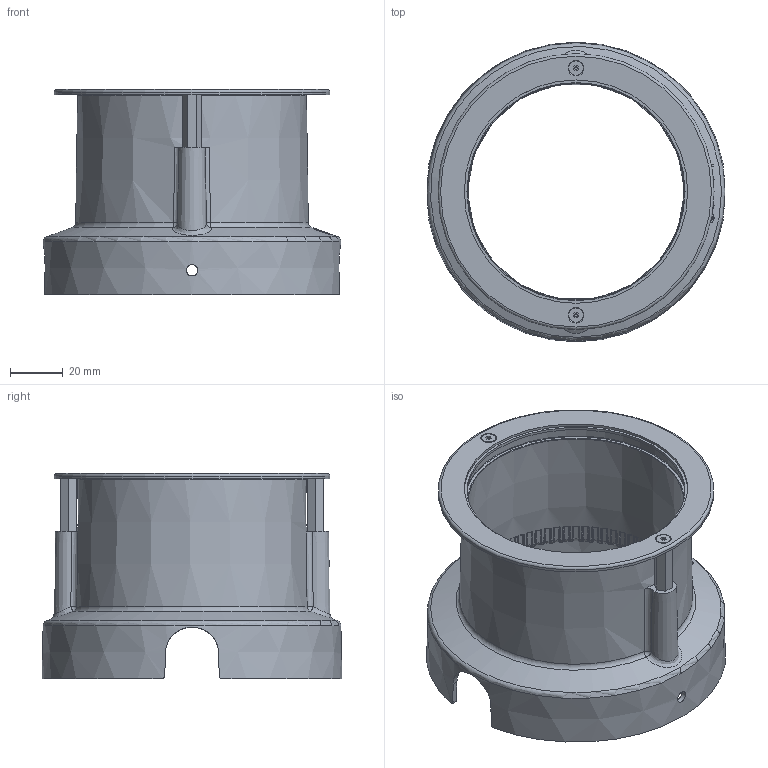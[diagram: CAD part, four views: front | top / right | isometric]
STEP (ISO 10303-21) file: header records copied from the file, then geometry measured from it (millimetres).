
FILE_DESCRIPTION(/* description */ ('Unknown'),/* implementation_level */ '2;1');
FILE_NAME(/* name */ 'E99563',/* time_stamp */ '2023-02-07T11:32:22+01:00',/* author */ ('Unknown'),/* organization */ ('Unknown'),/* preprocessor_version */ 'ST-DEVELOPER v18.1',/* originating_system */ 'Solid Edge',/* authorisation */ 'Unknown');
FILE_SCHEMA (('AUTOMOTIVE_DESIGN {1 0 10303 214 3 1 1}'));
Length unit declared in the file: millimetre
Products named in the file (1): E99563
Bounding box: 113.32 x 114 x 78 mm (x, y, z)
Volume: 67440.1 mm3; surface area: 60439.5 mm2
Topology: 1 solids, 1 shells, 1828 faces, 4371 edges, 2530 vertices
Faces by surface type: bspline 1098, torus 192, cone 179, cylinder 164, plane 159, sphere 36
Full cylindrical faces by diameter (mm): 1 x2, 3 x2, 3.5 x2, 4.3 x2, 83 x1, 85 x2, 105 x1
Entity records: 78809 total; most frequent: CARTESIAN_POINT 32248, ORIENTED_EDGE 8544, DIRECTION 4986, EDGE_CURVE 4272, VERTEX_POINT 2507, B_SPLINE_CURVE_WITH_KNOTS 2375, AXIS2_PLACEMENT_3D 2358, EDGE_LOOP 1899
